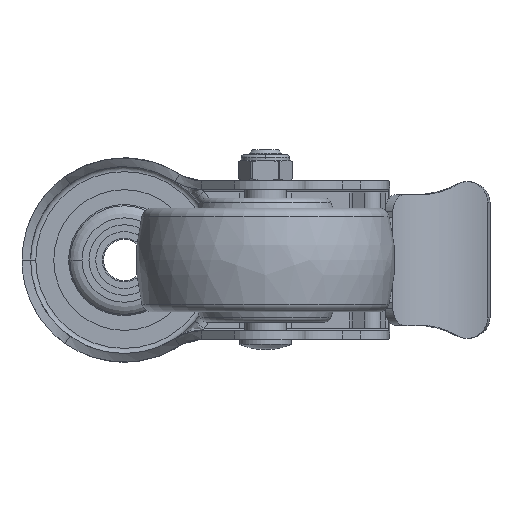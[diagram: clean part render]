
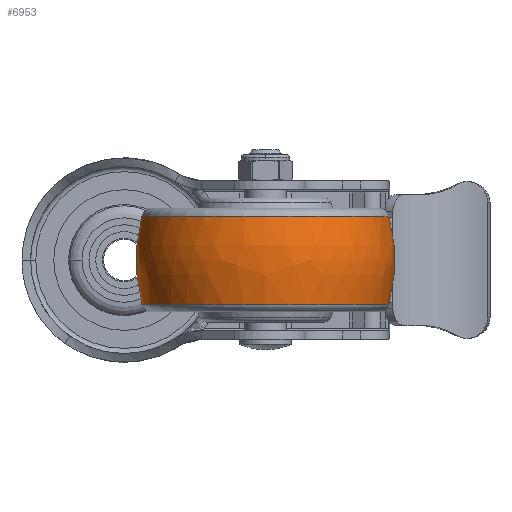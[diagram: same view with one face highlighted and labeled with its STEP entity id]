
A CAD part, front view. The second image highlights one B-rep face of the part: STEP entity #6953.
In plain terms, the highlighted free-form (B-spline) face has degree [3, 3] with [7, 4] control points.
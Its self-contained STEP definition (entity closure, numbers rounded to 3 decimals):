
#6423=CARTESIAN_POINT('',(0.,-12.5,0.));
#6424=DIRECTION('',(0.,0.,1.));
#6425=DIRECTION('',(0.255,0.967,0.));
#6426=AXIS2_PLACEMENT_3D('',#6423,#6424,#6425);
#6428=CARTESIAN_POINT('',(0.,12.5,0.));
#6429=DIRECTION('',(0.,0.,-1.));
#6430=DIRECTION('',(0.255,-0.967,0.));
#6431=AXIS2_PLACEMENT_3D('',#6428,#6429,#6430);
#6433=CARTESIAN_POINT('',(12.756,0.,0.));
#6434=DIRECTION('',(-1.,0.,0.));
#6435=DIRECTION('',(0.,1.,0.));
#6436=AXIS2_PLACEMENT_3D('',#6433,#6434,#6435);
#6448=CARTESIAN_POINT('',(-12.766,0.,0.));
#6449=DIRECTION('',(-1.,0.,0.));
#6450=DIRECTION('',(0.,1.,0.));
#6451=AXIS2_PLACEMENT_3D('',#6448,#6449,#6450);
#6788=CARTESIAN_POINT('',(12.756,35.845,0.));
#6789=CARTESIAN_POINT('',(-12.766,35.843,0.));
#6790=VERTEX_POINT('',#6788);
#6791=VERTEX_POINT('',#6789);
#6832=CARTESIAN_POINT('',(12.756,-35.845,0.));
#6833=CARTESIAN_POINT('',(-12.766,-35.843,0.));
#6834=VERTEX_POINT('',#6832);
#6835=VERTEX_POINT('',#6833);
#6916=CARTESIAN_POINT('',(-13.264,-35.638,
2.242));
#6917=CARTESIAN_POINT('',(-4.533,-38.036,
2.393));
#6918=CARTESIAN_POINT('',(4.523,-38.037,2.393));
#6919=CARTESIAN_POINT('',(13.255,-35.641,2.242));
#6920=CARTESIAN_POINT('',(-13.264,-37.018,
-19.689));
#6921=CARTESIAN_POINT('',(-4.533,-39.508,
-21.014));
#6922=CARTESIAN_POINT('',(4.523,-39.509,
-21.015));
#6923=CARTESIAN_POINT('',(13.255,-37.021,
-19.691));
#6924=CARTESIAN_POINT('',(-13.264,-21.975,
-35.708));
#6925=CARTESIAN_POINT('',(-4.533,-23.453,
-38.111));
#6926=CARTESIAN_POINT('',(4.523,-23.454,
-38.112));
#6927=CARTESIAN_POINT('',(13.255,-21.977,
-35.711));
#6928=CARTESIAN_POINT('',(-13.264,0.,
-35.708));
#6929=CARTESIAN_POINT('',(-4.533,0.,
-38.111));
#6930=CARTESIAN_POINT('',(4.523,0.,-38.112));
#6931=CARTESIAN_POINT('',(13.255,0.,
-35.711));
#6932=CARTESIAN_POINT('',(-13.264,21.975,
-35.708));
#6933=CARTESIAN_POINT('',(-4.533,23.453,
-38.111));
#6934=CARTESIAN_POINT('',(4.523,23.454,-38.112));
#6935=CARTESIAN_POINT('',(13.255,21.977,-35.711));
#6936=CARTESIAN_POINT('',(-13.264,37.018,
-19.689));
#6937=CARTESIAN_POINT('',(-4.533,39.508,
-21.014));
#6938=CARTESIAN_POINT('',(4.523,39.509,-21.015));
#6939=CARTESIAN_POINT('',(13.255,37.021,-19.691));
#6940=CARTESIAN_POINT('',(-13.264,35.638,2.242));
#6941=CARTESIAN_POINT('',(-4.533,38.036,2.393));
#6942=CARTESIAN_POINT('',(4.523,38.037,2.393));
#6943=CARTESIAN_POINT('',(13.255,35.641,2.242));
#6944=(BOUNDED_SURFACE()B_SPLINE_SURFACE(3,3,((#6916,#6917,#6918,#6919),(#6920,
#6921,#6922,#6923),(#6924,#6925,#6926,#6927),(#6928,#6929,#6930,#6931),(#6932,
#6933,#6934,#6935),(#6936,#6937,#6938,#6939),(#6940,#6941,#6942,#6943)),
.UNSPECIFIED.,.F.,.F.,.F.)B_SPLINE_SURFACE_WITH_KNOTS((4,3,4),(4,4),(0.,1.,
2.),(0.,1.),.UNSPECIFIED.)GEOMETRIC_REPRESENTATION_ITEM()RATIONAL_B_SPLINE_SURFACE(((1.209,1.18,1.18,1.209),(
0.955,0.932,0.932,0.955),(
0.955,0.932,0.932,0.955),(
1.209,1.18,1.18,1.209),(
0.955,0.932,0.932,0.955),(
0.955,0.932,0.932,0.955),(
1.209,1.18,1.18,1.209)))REPRESENTATION_ITEM('')SURFACE());
#6945=ORIENTED_EDGE('',*,*,#6905,.T.);
#6947=ORIENTED_EDGE('',*,*,#6946,.T.);
#6948=ORIENTED_EDGE('',*,*,#6909,.F.);
#6950=ORIENTED_EDGE('',*,*,#6949,.F.);
#6951=EDGE_LOOP('',(#6945,#6947,#6948,#6950));
#6952=FACE_OUTER_BOUND('',#6951,.F.);
#6427=CIRCLE('',#6426,50.);
#6432=CIRCLE('',#6431,50.);
#6437=CIRCLE('',#6436,35.845);
#6452=CIRCLE('',#6451,35.843);
#6905=EDGE_CURVE('',#6790,#6791,#6427,.T.);
#6909=EDGE_CURVE('',#6834,#6835,#6432,.T.);
#6946=EDGE_CURVE('',#6791,#6835,#6452,.T.);
#6949=EDGE_CURVE('',#6790,#6834,#6437,.T.);
#6953=ADVANCED_FACE('',(#6952),#6944,.T.);
